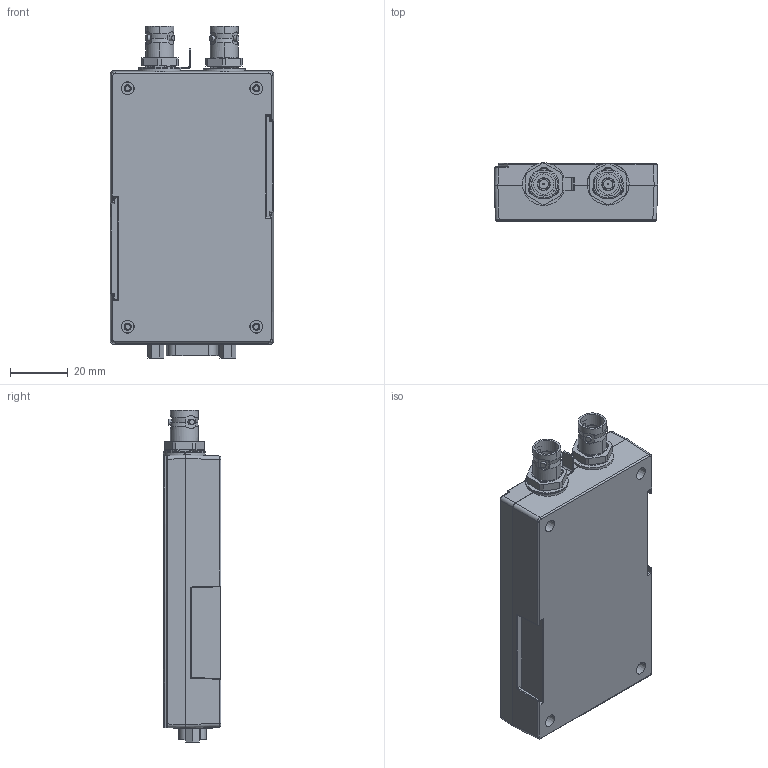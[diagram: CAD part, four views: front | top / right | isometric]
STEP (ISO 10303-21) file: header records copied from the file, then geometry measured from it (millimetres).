
FILE_DESCRIPTION((''),'2;1');
FILE_NAME('4200-PA_ASM','2020-07-28T11:05:33',('mboehnle'),('Keithley Instruments'),'CREO PARAMETRIC BY PTC INC, 2019080','CREO PARAMETRIC BY PTC INC, 2019080','');
FILE_SCHEMA(('AUTOMOTIVE_DESIGN { 1 0 10303 214 1 1 1 1 }'));
Length unit declared in the file: inch
Products named in the file (8): 4200-316; 4200-315; CS-995; CA-214; CS-725; 4200-362; 4200-180_ASM; 4200-PA_ASM
Assembly tree (9 placements, depth 2):
  4200-PA_ASM
    4200-316
    4200-315
    CS-995  x2
    CA-214
    CS-725  x2
    4200-362
    4200-180_ASM
Bounding box: 56.54 x 20.01 x 114.76 mm (x, y, z)
Volume: 29759.9 mm3; surface area: 42425.8 mm2
Topology: 8 solids, 8 shells, 958 faces, 2496 edges, 1566 vertices
Faces by surface type: plane 449, cylinder 343, cone 122, torus 30, bspline 14
Entity records: 29314 total; most frequent: CARTESIAN_POINT 6707, DIRECTION 4072, ORIENTED_EDGE 3798, EDGE_CURVE 1899, AXIS2_PLACEMENT_3D 1444, VERTEX_POINT 1198, VECTOR 1161, LINE 1161
